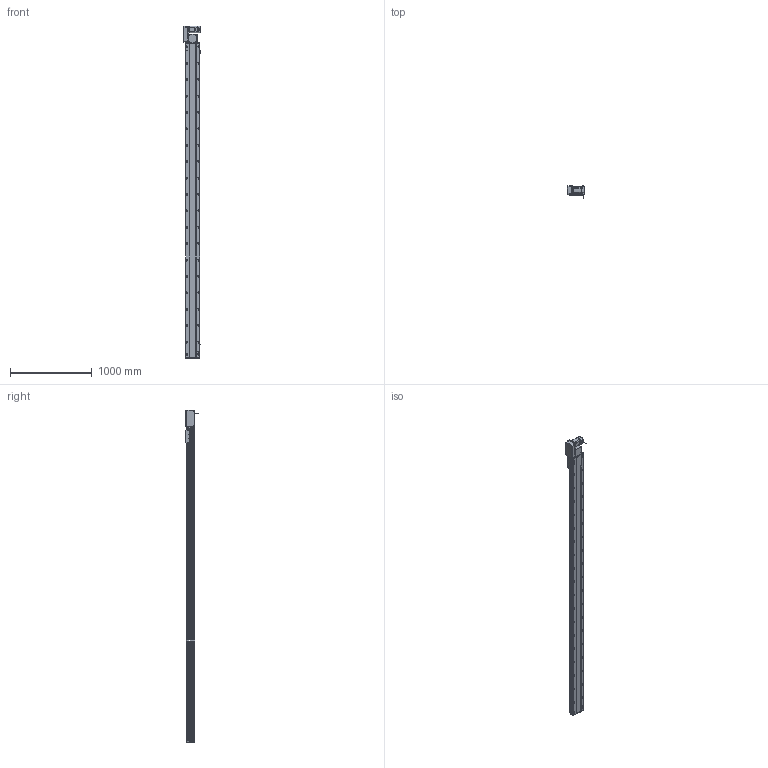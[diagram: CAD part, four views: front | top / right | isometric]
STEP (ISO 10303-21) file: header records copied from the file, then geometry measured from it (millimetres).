
FILE_DESCRIPTION (( 'STEP AP214' ), '1' );
FILE_NAME ('RTB17S-XX-3550-L-M75-C4.STEP', '2025-12-12T00:28:09', ( '' ), ( '' ), 'SwSTEP 2.0', 'SolidWorks 2018', '' );
FILE_SCHEMA (( 'AUTOMOTIVE_DESIGN' ));
Length unit declared in the file: millimetre
Products named in the file (15): RTB22S-GY-008-M75--萇儂啣^RTB17S-L-々湍釱蚾饜-750W_RTB17S-XX-XX-L-M75-C4; RTB22S-GY-005P^RTB17S-L-々湍釱蚾饜-750W_RTB17S-XX-XX-L-M75-C4; RTB17S-XX-3550-L-M75-C4; RTB22S-GY-018P^RTB17S-L-々湍釱蚾饜-750W_RTB17S-XX-XX-L-M75-C4; RTB17-R-011菁釱^RTB17S-XX-XX-L-M75-C4; RTB17S-賑釱^RTB17S-XX-XX-L-M75-C4; RTB17S-L-001-耜醱啣^RTB17S-XX-XX-L-M75-C4; RTB22S-GY-017P^RTB17S-L-々湍釱蚾饜-750W_RTB17S-XX-XX-L-M75-C4; RTB17S-L-々湍釱蚾饜-750W^RTB17S-XX-XX-L-M75-C4; 750W萇儂^RTB17S-XX-XX-L-M75-C4; RTB17S-L-007奻裔^RTB17S-XX-XX-L-M75-C4; RTH13-BL-012覜茼え俋离^RTB17S-賑釱_RTB17S-XX-XX-L-M75-C4; RMP17S-L-014-T20-P75--々湍釱^RTB17S-L-々湍釱蚾饜-750W_RTB17S-XX-XX-L-M75-C4; RTB17S-L-004-賑釱^RTB17S-賑釱_RTB17S-XX-XX-L-M75-C4; EE672^RTB17S-XX-XX-L-M75-C4
Assembly tree (17 placements, depth 3):
  RTB17S-XX-3550-L-M75-C4
    RTB17-R-011菁釱^RTB17S-XX-XX-L-M75-C4
    EE672^RTB17S-XX-XX-L-M75-C4  x3
    RTB17S-L-001-耜醱啣^RTB17S-XX-XX-L-M75-C4
    RTB17S-賑釱^RTB17S-XX-XX-L-M75-C4
      RTB17S-L-004-賑釱^RTB17S-賑釱_RTB17S-XX-XX-L-M75-C4
      RTH13-BL-012覜茼え俋离^RTB17S-賑釱_RTB17S-XX-XX-L-M75-C4
    RTB17S-L-007奻裔^RTB17S-XX-XX-L-M75-C4
    750W萇儂^RTB17S-XX-XX-L-M75-C4
    RTB17S-L-々湍釱蚾饜-750W^RTB17S-XX-XX-L-M75-C4
      RMP17S-L-014-T20-P75--々湍釱^RTB17S-L-々湍釱蚾饜-750W_RTB17S-XX-XX-L-M75-C4
      RTB22S-GY-005P^RTB17S-L-々湍釱蚾饜-750W_RTB17S-XX-XX-L-M75-C4
      RTB22S-GY-017P^RTB17S-L-々湍釱蚾饜-750W_RTB17S-XX-XX-L-M75-C4  x2
      RTB22S-GY-008-M75--萇儂啣^RTB17S-L-々湍釱蚾饜-750W_RTB17S-XX-XX-L-M75-C4
      RTB22S-GY-018P^RTB17S-L-々湍釱蚾饜-750W_RTB17S-XX-XX-L-M75-C4
Bounding box: 210.4 x 152.7 x 4049 mm (x, y, z)
Volume: 28141594.1 mm3; surface area: 5203158.6 mm2
Topology: 17 solids, 17 shells, 2297 faces, 6484 edges, 4202 vertices
Faces by surface type: plane 996, cylinder 885, bspline 294, cone 110, sphere 8, torus 4
Entity records: 68086 total; most frequent: CARTESIAN_POINT 20348, ORIENTED_EDGE 9812, DIRECTION 9032, EDGE_CURVE 4906, AXIS2_PLACEMENT_3D 3222, VERTEX_POINT 3206, LINE 2588, VECTOR 2588
